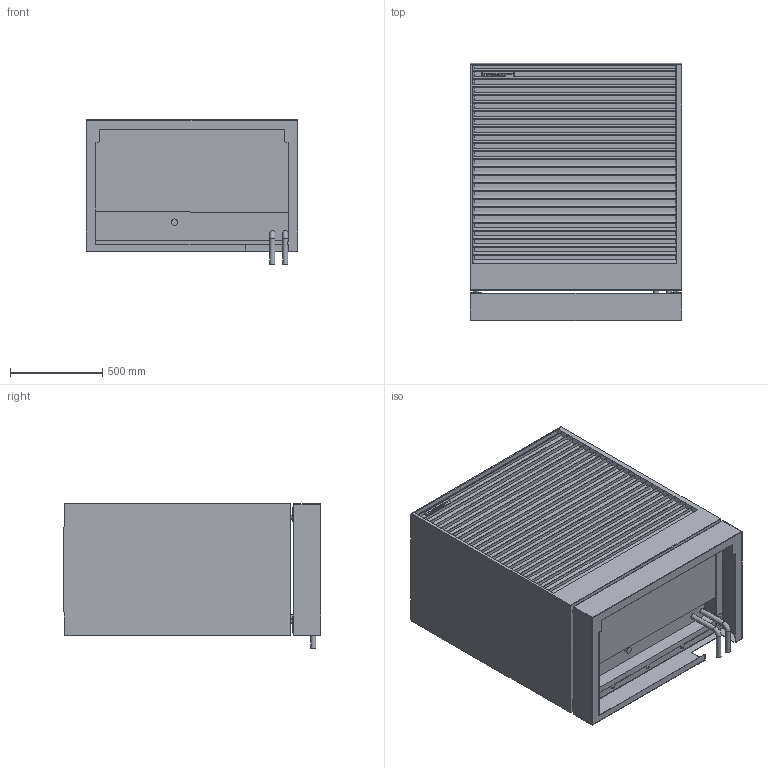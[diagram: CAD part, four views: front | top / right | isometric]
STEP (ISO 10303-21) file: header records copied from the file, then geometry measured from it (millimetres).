
FILE_DESCRIPTION (( 'STEP AP214' ), '1' );
FILE_NAME ('ADAPT 2 M,L_zadnji priklop + kovinski temelj.STEP', '2026-03-13T08:32:07', ( '' ), ( '' ), 'SwSTEP 2.0', 'SolidWorks 2024', '' );
FILE_SCHEMA (( 'AUTOMOTIVE_DESIGN' ));
Length unit declared in the file: millimetre
Products named in the file (3): ADAPT 2 M,L_Zadnji priklop - spodaj; TKT_ADAPT 2_Izrez za cevi; ADAPT 2 M,L_zadnji priklop + kovinski temelj
Assembly tree (2 placements, depth 2):
  ADAPT 2 M,L_zadnji priklop + kovinski temelj
    TKT_ADAPT 2_Izrez za cevi
    ADAPT 2 M,L_Zadnji priklop - spodaj
Bounding box: 1150 x 1399.29 x 782.9 mm (x, y, z)
Volume: 947105717.2 mm3; surface area: 10723044 mm2
Topology: 2 solids, 2 shells, 754 faces, 2093 edges, 1375 vertices
Faces by surface type: plane 593, bspline 76, cylinder 70, sphere 9, cone 4, torus 2
Full cylindrical faces by diameter (mm): 8.376 x2, 12.67 x2, 13 x8, 19 x4, 28 x4, 34.029 x1
Entity records: 33333 total; most frequent: CARTESIAN_POINT 8658, ORIENTED_EDGE 4082, DIRECTION 3339, EDGE_CURVE 2041, LINE 1751, VECTOR 1751, VERTEX_POINT 1363, EDGE_LOOP 868
